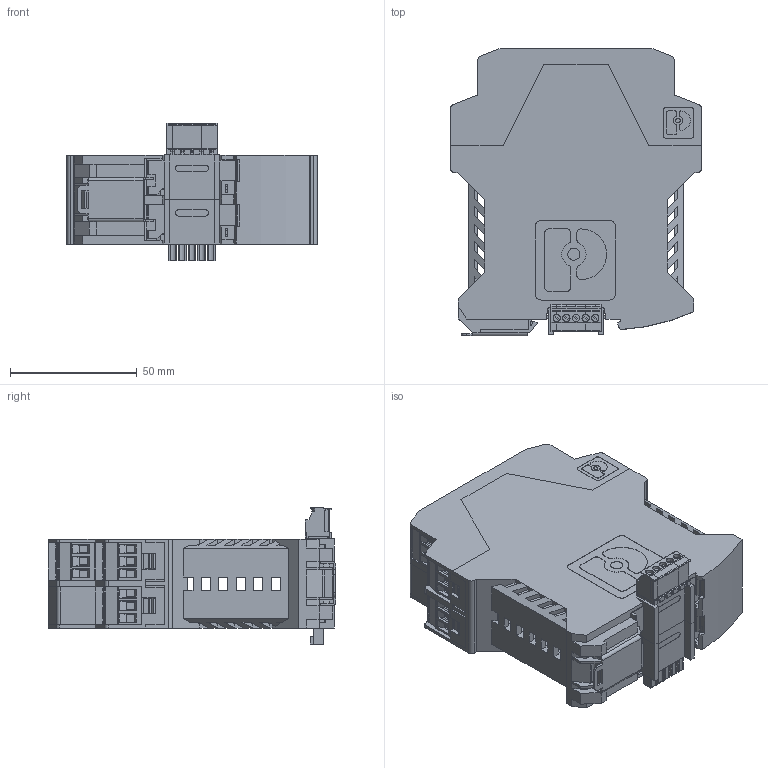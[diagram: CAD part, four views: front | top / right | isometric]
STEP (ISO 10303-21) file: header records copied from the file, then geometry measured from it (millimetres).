
FILE_DESCRIPTION(('STEP AP214'), '1');
FILE_NAME('ﾑﾃﾌ ﾝﾐﾈﾑ-110 DIN', '', ('UNSPECIFIED'), ('UNSPECIFIED'), 'ASCON STEP Converter 1.3', 'ASCON Math Kernel', '');
FILE_SCHEMA(('AUTOMOTIVE_DESIGN { 1 0 10303 214 3 1 1}'));
Length unit declared in the file: millimetre
Products named in the file (40): me_35_ut_tbus; ME_35_OT-MSTBO.1; MSTBO_2.5_3_G1L_H.Select; MSTBO_2.5_3_G1L_5.0_PCB_FRAGMENT; MSTBO_2.5_3-G1L_H.Select__00443825; ME_B-17.5_MSTBO_H.Select__00633118; MSTBO_2.5_3_G1R_H.Select; MSTBO_2.5_3_G1R_5.0_PCB_FRAGMENT; MSTBO_2.5_3-G1R_H.Select__00443406; ME_17.5_TBUS_1.5_5_ST_3.81_01049532; PCB-Fragment_ME...TBUS...5P_01048771; ME_17.5_TBUS_1.5-5-ST-3.81_H.Select; MSTBT_2.5_3_ST_H.Select; 2018_07_13__10-53-11-151; 2018_07_13__10-53-11-135; 1; 2; 3; 4; 5; 6
Assembly tree (49 placements, depth 3):
  (unnamed)
    me_35_ut_tbus
      me_35_ut_tbus
    ME_35_OT-MSTBO.1
    MSTBO_2.5_3_G1L_H.Select  x2
      MSTBO_2.5_3_G1L_5.0_PCB_FRAGMENT
      MSTBO_2.5_3-G1L_H.Select__00443825
    ME_B-17.5_MSTBO_H.Select__00633118  x3
      ME_B-17.5_MSTBO_H.Select__00633118
    MSTBO_2.5_3_G1R_H.Select  x3
      MSTBO_2.5_3_G1R_5.0_PCB_FRAGMENT
      MSTBO_2.5_3-G1R_H.Select__00443406
    ME_17.5_TBUS_1.5_5_ST_3.81_01049532  x2
      PCB-Fragment_ME...TBUS...5P_01048771
      ME_17.5_TBUS_1.5-5-ST-3.81_H.Select
    MSTBT_2.5_3_ST_H.Select  x5
      MSTBT_2.5_3_ST_H.Select
    (unnamed)
    (unnamed)
      2018_07_13__10-53-11-151
      2018_07_13__10-53-11-151
      2018_07_13__10-53-11-151
      2018_07_13__10-53-11-151
      2018_07_13__10-53-11-151
      2018_07_13__10-53-11-151
      2018_07_13__10-53-11-151
      2018_07_13__10-53-11-151
      2018_07_13__10-53-11-151
      2018_07_13__10-53-11-151
      2018_07_13__10-53-11-151
      2018_07_13__10-53-11-135
      2018_07_13__10-53-11-135
      2018_07_13__10-53-11-135
      2018_07_13__10-53-11-135
      1
      2
      3
      4
      5
      6
Bounding box: 99 x 113.6 x 54.3 mm (x, y, z)
Volume: 100881.5 mm3; surface area: 112330.9 mm2
Topology: 45 solids, 46 shells, 6418 faces, 17887 edges, 11768 vertices
Faces by surface type: plane 5365, cylinder 965, extrusion 41, cone 35, torus 7, sphere 5
Full cylindrical faces by diameter (mm): 0.62 x2, 1.18 x5, 1.2 x5, 1.4 x30, 1.6 x20, 2 x10, 2.8 x20
Entity records: 160999 total; most frequent: CARTESIAN_POINT 28861, ORIENTED_EDGE 21466, DIRECTION 19257, EDGE_CURVE 10737, VECTOR 9283, LINE 9248, VERTEX_POINT 7106, AXIS2_PLACEMENT_3D 4987
